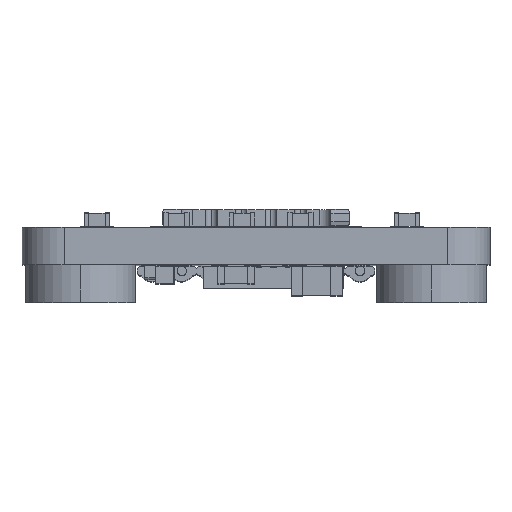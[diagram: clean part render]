
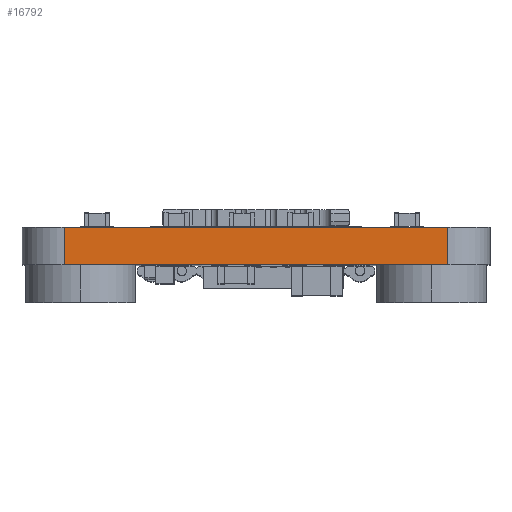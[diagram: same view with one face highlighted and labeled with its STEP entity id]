
A CAD part, top view. The second image highlights one B-rep face of the part: STEP entity #16792.
In plain terms, the highlighted planar face has unit normal (0, 0, 1).
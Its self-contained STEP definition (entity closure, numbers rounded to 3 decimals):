
#1880 = CARTESIAN_POINT ( 'NONE',  ( -10., 1.6, 10. ) ) ;
#3278 = ORIENTED_EDGE ( 'NONE', *, *, #35589, .T. ) ;
#3781 = ORIENTED_EDGE ( 'NONE', *, *, #7051, .T. ) ;
#4321 = VECTOR ( 'NONE', #37233, 1000. ) ;
#6176 = EDGE_CURVE ( 'NONE', #6684, #18292, #20124, .T. ) ;
#6434 = VECTOR ( 'NONE', #6617, 1000. ) ;
#6591 = LINE ( 'NONE', #42190, #25949 ) ;
#6617 = DIRECTION ( 'NONE',  ( 0., 1., 0. ) ) ;
#6684 = VERTEX_POINT ( 'NONE', #18644 ) ;
#7051 = EDGE_CURVE ( 'NONE', #43198, #19951, #6591, .T. ) ;
#7981 = CARTESIAN_POINT ( 'NONE',  ( -10., 1.6, 10. ) ) ;
#9947 = CARTESIAN_POINT ( 'NONE',  ( 8.2, 1.6, 10. ) ) ;
#10800 = EDGE_CURVE ( 'NONE', #19951, #18292, #42470, .T. ) ;
#11577 = DIRECTION ( 'NONE',  ( -1., 0., 0. ) ) ;
#15573 = ORIENTED_EDGE ( 'NONE', *, *, #6176, .F. ) ;
#16792 = ADVANCED_FACE ( 'NONE', ( #17656 ), #18171, .F. ) ;
#17656 = FACE_OUTER_BOUND ( 'NONE', #23627, .T. ) ;
#18171 = PLANE ( 'NONE',  #18927 ) ;
#18292 = VERTEX_POINT ( 'NONE', #21478 ) ;
#18644 = CARTESIAN_POINT ( 'NONE',  ( -8.2, 1.6, 10. ) ) ;
#18927 = AXIS2_PLACEMENT_3D ( 'NONE', #7981, #29007, #11577 ) ;
#19951 = VERTEX_POINT ( 'NONE', #42523 ) ;
#20124 = LINE ( 'NONE', #1880, #37888 ) ;
#21478 = CARTESIAN_POINT ( 'NONE',  ( 8.2, 1.6, 10. ) ) ;
#23627 = EDGE_LOOP ( 'NONE', ( #15573, #3278, #3781, #35820 ) ) ;
#25949 = VECTOR ( 'NONE', #28708, 1000. ) ;
#28708 = DIRECTION ( 'NONE',  ( 1., 0., 0. ) ) ;
#29007 = DIRECTION ( 'NONE',  ( 0., 0., -1. ) ) ;
#33547 = CARTESIAN_POINT ( 'NONE',  ( -8.2, 0., 10. ) ) ;
#35589 = EDGE_CURVE ( 'NONE', #6684, #43198, #37652, .T. ) ;
#35820 = ORIENTED_EDGE ( 'NONE', *, *, #10800, .T. ) ;
#37233 = DIRECTION ( 'NONE',  ( 0., -1., 0. ) ) ;
#37652 = LINE ( 'NONE', #40378, #4321 ) ;
#37888 = VECTOR ( 'NONE', #39117, 1000. ) ;
#39117 = DIRECTION ( 'NONE',  ( 1., 0., 0. ) ) ;
#40378 = CARTESIAN_POINT ( 'NONE',  ( -8.2, 1.6, 10. ) ) ;
#42190 = CARTESIAN_POINT ( 'NONE',  ( -10., 0., 10. ) ) ;
#42470 = LINE ( 'NONE', #9947, #6434 ) ;
#42523 = CARTESIAN_POINT ( 'NONE',  ( 8.2, 0., 10. ) ) ;
#43198 = VERTEX_POINT ( 'NONE', #33547 ) ;
